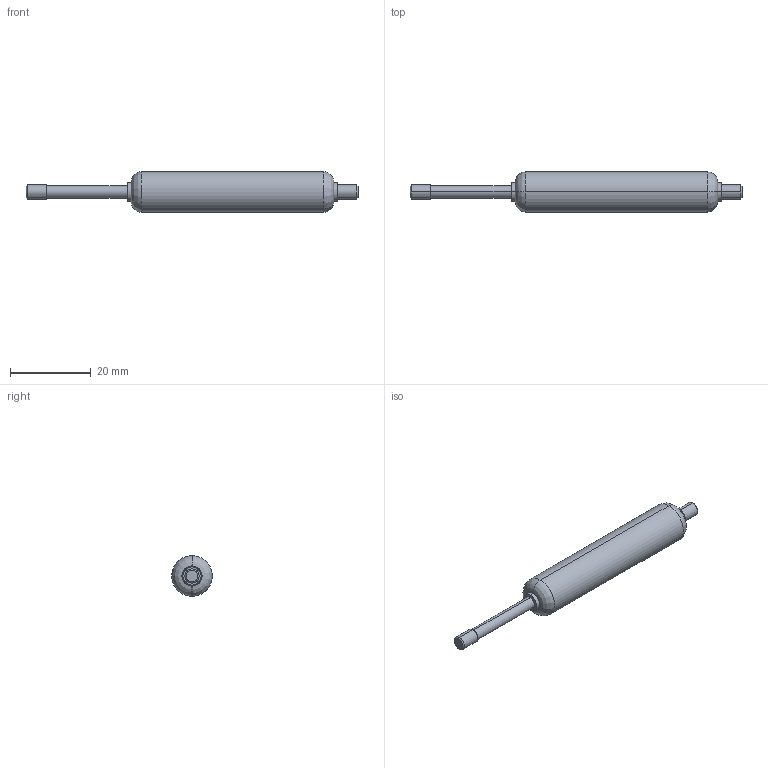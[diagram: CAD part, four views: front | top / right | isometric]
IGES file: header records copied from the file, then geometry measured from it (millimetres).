
Start section: SolidWorks IGES file using analytic representation for surfaces
Bounding box: 82 x 10 x 10 mm (x, y, z)
Surface area: 1982.6 mm2 (no closed solid volume)
Topology: 0 solids, 0 shells, 27 faces, 464 edges, 464 vertices
Faces by surface type: revolution 16, bspline 11
